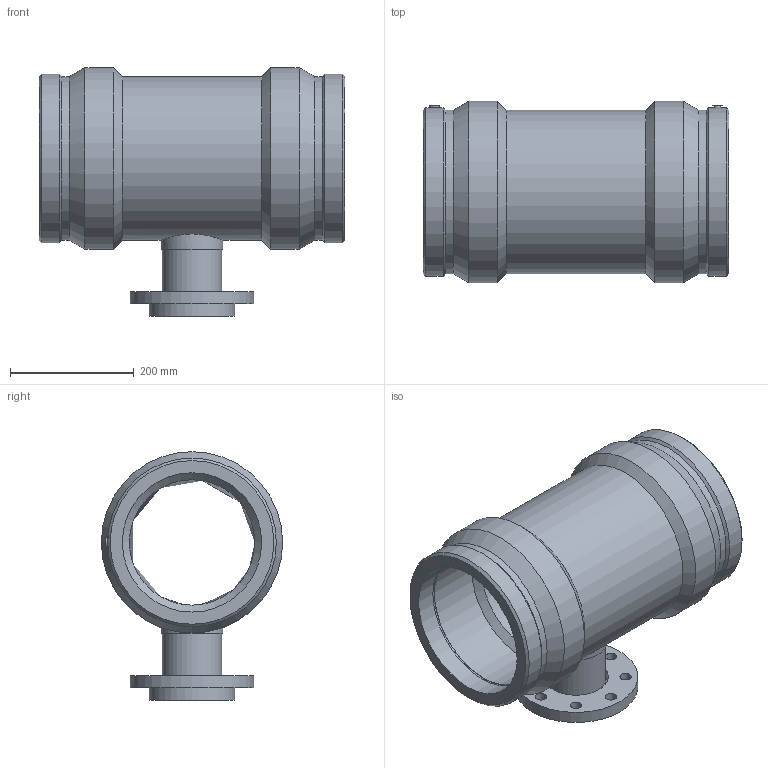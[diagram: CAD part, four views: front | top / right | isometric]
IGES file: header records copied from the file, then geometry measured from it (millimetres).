
Global section: file name: 499404225080.ipt; native system: Autodesk Inventor 2015; preprocessor: unknown; author: KIM; date: 20171106.094458; units: millimetre
Bounding box: 494 x 293 x 401.5 mm (x, y, z)
Volume: 11774082.6 mm3; surface area: 961226.3 mm2
Topology: 1 solids, 2 shells, 60 faces, 136 edges, 90 vertices
Faces by surface type: revolution 21, plane 14, cylinder 13, cone 11, bspline 1
Full cylindrical faces by diameter (mm): 4 x2, 96 x1, 100 x1, 138 x1, 200 x1, 263.7 x1, 264.315 x2, 272.49 x2, 293 x2
